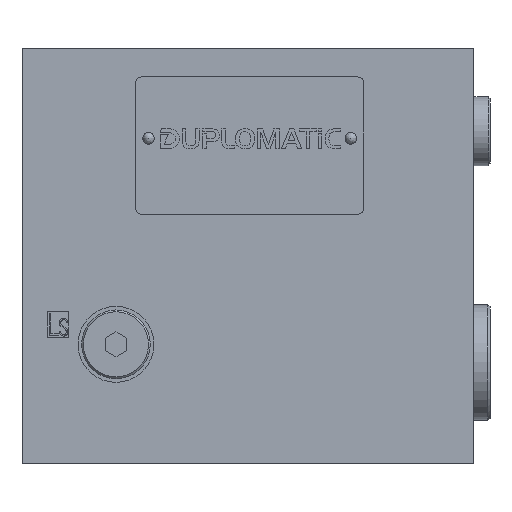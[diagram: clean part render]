
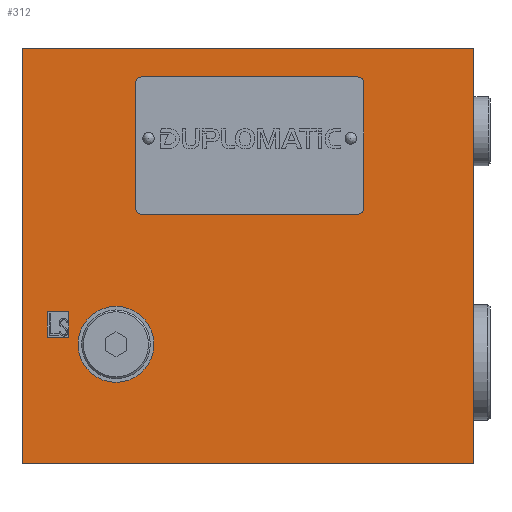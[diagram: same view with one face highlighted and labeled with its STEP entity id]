
A CAD part, top view. The second image highlights one B-rep face of the part: STEP entity #312.
In plain terms, the highlighted planar face has unit normal (0, 0, 1).
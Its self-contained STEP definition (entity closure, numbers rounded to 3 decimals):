
#312 = ADVANCED_FACE( '', ( #883, #884, #885, #886, #887 ), #888, .T. );
#883 = FACE_BOUND( '', #2090, .T. );
#884 = FACE_BOUND( '', #2091, .T. );
#885 = FACE_BOUND( '', #2092, .T. );
#886 = FACE_BOUND( '', #2093, .T. );
#887 = FACE_OUTER_BOUND( '', #2094, .T. );
#888 = PLANE( '', #2095 );
#2090 = EDGE_LOOP( '', ( #3408, #3409, #3410, #3411 ) );
#2091 = EDGE_LOOP( '', ( #3412 ) );
#2092 = EDGE_LOOP( '', ( #3413 ) );
#2093 = EDGE_LOOP( '', ( #3414 ) );
#2094 = EDGE_LOOP( '', ( #3415, #3416, #3417, #3418 ) );
#2095 = AXIS2_PLACEMENT_3D( '', #3419, #3420, #3421 );
#3408 = ORIENTED_EDGE( '', *, *, #7504, .F. );
#3409 = ORIENTED_EDGE( '', *, *, #7505, .F. );
#3410 = ORIENTED_EDGE( '', *, *, #7506, .F. );
#3411 = ORIENTED_EDGE( '', *, *, #7507, .F. );
#3412 = ORIENTED_EDGE( '', *, *, #7492, .F. );
#3413 = ORIENTED_EDGE( '', *, *, #7494, .F. );
#3414 = ORIENTED_EDGE( '', *, *, #7503, .T. );
#3415 = ORIENTED_EDGE( '', *, *, #7508, .T. );
#3416 = ORIENTED_EDGE( '', *, *, #7509, .T. );
#3417 = ORIENTED_EDGE( '', *, *, #7510, .T. );
#3418 = ORIENTED_EDGE( '', *, *, #7511, .T. );
#3419 = CARTESIAN_POINT( '', ( 0., 0., 30. ) );
#3420 = DIRECTION( '', ( 0., 0., 1. ) );
#3421 = DIRECTION( '', ( 1., 0., 0. ) );
#7492 = EDGE_CURVE( '', #8800, #8800, #8801, .T. );
#7494 = EDGE_CURVE( '', #8804, #8804, #8805, .T. );
#7503 = EDGE_CURVE( '', #8822, #8822, #8823, .T. );
#7504 = EDGE_CURVE( '', #8824, #8825, #8826, .T. );
#7505 = EDGE_CURVE( '', #8827, #8824, #8828, .T. );
#7506 = EDGE_CURVE( '', #8829, #8827, #8830, .T. );
#7507 = EDGE_CURVE( '', #8825, #8829, #8831, .T. );
#7508 = EDGE_CURVE( '', #8832, #8833, #8834, .T. );
#7509 = EDGE_CURVE( '', #8833, #8835, #8836, .T. );
#7510 = EDGE_CURVE( '', #8835, #8837, #8838, .T. );
#7511 = EDGE_CURVE( '', #8837, #8832, #8839, .T. );
#8800 = VERTEX_POINT( '', #11136 );
#8801 = CIRCLE( '', #11137, 0.85 );
#8804 = VERTEX_POINT( '', #11140 );
#8805 = CIRCLE( '', #11141, 0.85 );
#8822 = VERTEX_POINT( '', #11158 );
#8823 = CIRCLE( '', #11159, 10.5 );
#8824 = VERTEX_POINT( '', #11160 );
#8825 = VERTEX_POINT( '', #11161 );
#8826 = LINE( '', #11162, #11163 );
#8827 = VERTEX_POINT( '', #11164 );
#8828 = LINE( '', #11165, #11166 );
#8829 = VERTEX_POINT( '', #11167 );
#8830 = LINE( '', #11168, #11169 );
#8831 = LINE( '', #11170, #11171 );
#8832 = VERTEX_POINT( '', #11172 );
#8833 = VERTEX_POINT( '', #11173 );
#8834 = LINE( '', #11174, #11175 );
#8835 = VERTEX_POINT( '', #11176 );
#8836 = LINE( '', #11177, #11178 );
#8837 = VERTEX_POINT( '', #11179 );
#8838 = LINE( '', #11180, #11181 );
#8839 = LINE( '', #11182, #11183 );
#11136 = CARTESIAN_POINT( '', ( 91.85, 90., 30. ) );
#11137 = AXIS2_PLACEMENT_3D( '', #14731, #14732, #14733 );
#11140 = CARTESIAN_POINT( '', ( 35.85, 90., 30. ) );
#11141 = AXIS2_PLACEMENT_3D( '', #14737, #14738, #14739 );
#11158 = CARTESIAN_POINT( '', ( 15.5, 33., 30. ) );
#11159 = AXIS2_PLACEMENT_3D( '', #14764, #14765, #14766 );
#11160 = CARTESIAN_POINT( '', ( 13., 42., 30. ) );
#11161 = CARTESIAN_POINT( '', ( 7., 42., 30. ) );
#11162 = CARTESIAN_POINT( '', ( 13., 42., 30. ) );
#11163 = VECTOR( '', #14767, 1000. );
#11164 = CARTESIAN_POINT( '', ( 13., 35., 30. ) );
#11165 = CARTESIAN_POINT( '', ( 13., 35., 30. ) );
#11166 = VECTOR( '', #14768, 1000. );
#11167 = CARTESIAN_POINT( '', ( 7., 35., 30. ) );
#11168 = CARTESIAN_POINT( '', ( 7., 35., 30. ) );
#11169 = VECTOR( '', #14769, 1000. );
#11170 = CARTESIAN_POINT( '', ( 7., 42., 30. ) );
#11171 = VECTOR( '', #14770, 1000. );
#11172 = CARTESIAN_POINT( '', ( 125., 115., 30. ) );
#11173 = CARTESIAN_POINT( '', ( 0., 115., 30. ) );
#11174 = CARTESIAN_POINT( '', ( 125., 115., 30. ) );
#11175 = VECTOR( '', #14771, 1000. );
#11176 = CARTESIAN_POINT( '', ( 0., 0., 30. ) );
#11177 = CARTESIAN_POINT( '', ( 0., 115., 30. ) );
#11178 = VECTOR( '', #14772, 1000. );
#11179 = CARTESIAN_POINT( '', ( 125., 0., 30. ) );
#11180 = CARTESIAN_POINT( '', ( 0., 0., 30. ) );
#11181 = VECTOR( '', #14773, 1000. );
#11182 = CARTESIAN_POINT( '', ( 125., 0., 30. ) );
#11183 = VECTOR( '', #14774, 1000. );
#14731 = CARTESIAN_POINT( '', ( 91., 90., 30. ) );
#14732 = DIRECTION( '', ( 0., 0., 1. ) );
#14733 = DIRECTION( '', ( 1., 0., 0. ) );
#14737 = CARTESIAN_POINT( '', ( 35., 90., 30. ) );
#14738 = DIRECTION( '', ( 0., 0., 1. ) );
#14739 = DIRECTION( '', ( 1., 0., 0. ) );
#14764 = CARTESIAN_POINT( '', ( 26., 33., 30. ) );
#14765 = DIRECTION( '', ( 0., 0., -1. ) );
#14766 = DIRECTION( '', ( -1., 0., 0. ) );
#14767 = DIRECTION( '', ( -1., 0., 0. ) );
#14768 = DIRECTION( '', ( 0., 1., 0. ) );
#14769 = DIRECTION( '', ( 1., 0., 0. ) );
#14770 = DIRECTION( '', ( 0., -1., 0. ) );
#14771 = DIRECTION( '', ( -1., 0., 0. ) );
#14772 = DIRECTION( '', ( 0., -1., 0. ) );
#14773 = DIRECTION( '', ( 1., 0., 0. ) );
#14774 = DIRECTION( '', ( 0., 1., 0. ) );
